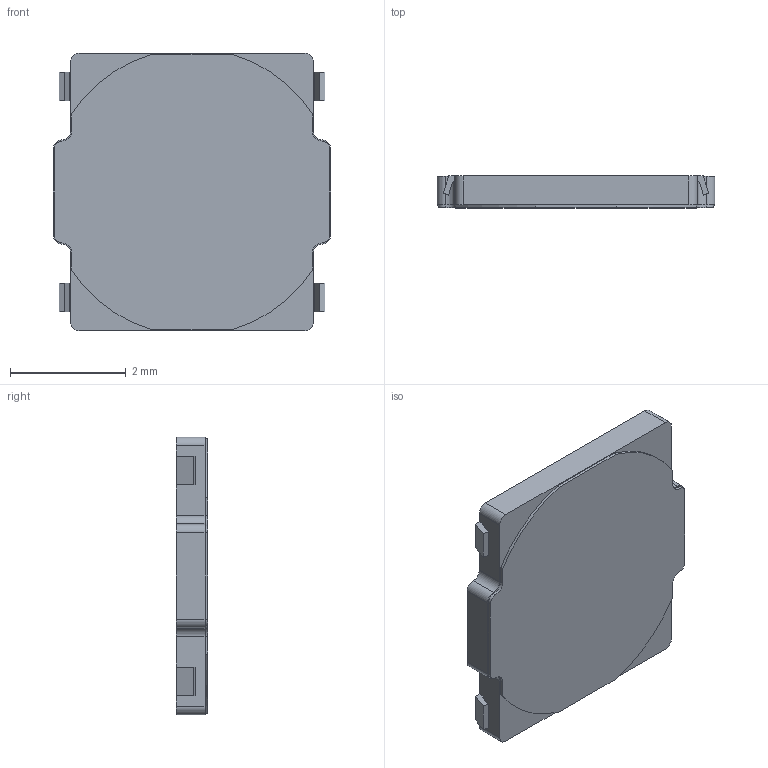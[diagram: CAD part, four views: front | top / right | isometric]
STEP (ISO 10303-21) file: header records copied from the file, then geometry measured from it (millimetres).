
FILE_DESCRIPTION((''),'2;1');
FILE_NAME('JQH4848-A0060-05EG-1-105_ASM','2026-05-22T17:46:03',('Admin'),(''),'CREO PARAMETRIC BY PTC INC, 2019224','CREO PARAMETRIC BY PTC INC, 2019224','');
FILE_SCHEMA(('AUTOMOTIVE_DESIGN { 1 0 10303 214 1 1 1 1 }'));
Length unit declared in the file: millimetre
Products named in the file (3): JQH4848-A0060-05EG-1-105_02; JQH4848-A0060-05EG-1-105_04; JQH4848-A0060-05EG-1-105_ASM
Assembly tree (2 placements, depth 2):
  JQH4848-A0060-05EG-1-105_ASM
    JQH4848-A0060-05EG-1-105_02
    JQH4848-A0060-05EG-1-105_04
Bounding box: 4.8 x 0.55 x 4.8 mm (x, y, z)
Volume: 10.1 mm3; surface area: 96.5 mm2
Topology: 2 solids, 2 shells, 97 faces, 275 edges, 183 vertices
Faces by surface type: plane 67, cylinder 28, sphere 2
Entity records: 4559 total; most frequent: CARTESIAN_POINT 567, DIRECTION 551, ORIENTED_EDGE 544, PRESENTATION_STYLE_ASSIGNMENT 311, STYLED_ITEM 278, CURVE_STYLE 276, EDGE_CURVE 272, VECTOR 207
